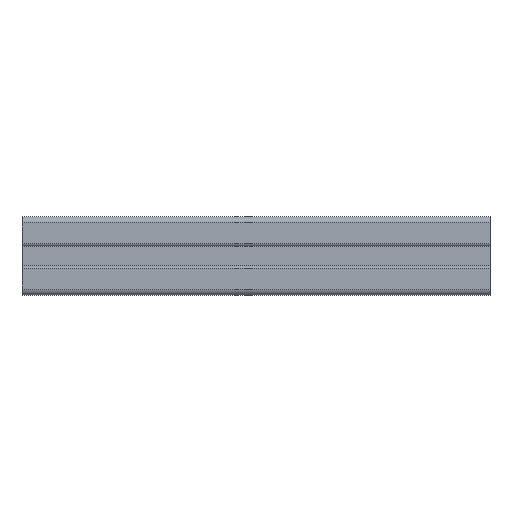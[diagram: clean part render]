
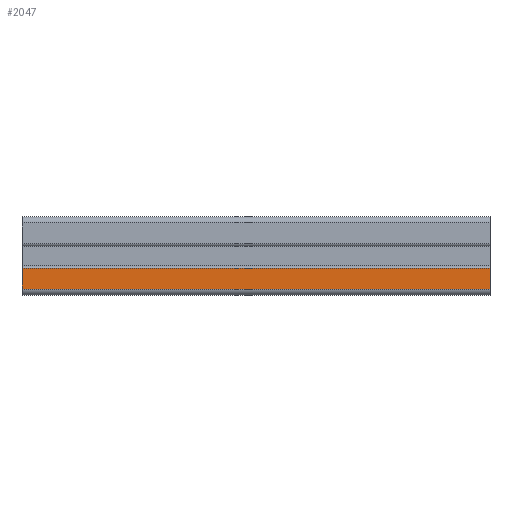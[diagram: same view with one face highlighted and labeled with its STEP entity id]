
A CAD part, front view. The second image highlights one B-rep face of the part: STEP entity #2047.
In plain terms, the highlighted free-form (B-spline) face has degree [1, 1] with [2, 2] control points.
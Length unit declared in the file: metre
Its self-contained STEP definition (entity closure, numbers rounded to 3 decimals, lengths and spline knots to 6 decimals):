
#25=B_SPLINE_SURFACE_WITH_KNOTS('',1,1,((#2998,#2999),(#3000,#3001)),
 .PLANE_SURF.,.F.,.F.,.F.,(2,2),(2,2),(0.,1.),(0.,1.),.UNSPECIFIED.);
#115=LINE('',#2995,#315);
#116=LINE('',#3002,#316);
#117=LINE('',#3004,#317);
#118=LINE('',#3006,#318);
#315=VECTOR('',#2366,1.);
#316=VECTOR('',#2369,1.);
#317=VECTOR('',#2370,1.);
#318=VECTOR('',#2371,1.);
#570=ORIENTED_EDGE('',*,*,#1178,.T.);
#571=ORIENTED_EDGE('',*,*,#1180,.F.);
#572=ORIENTED_EDGE('',*,*,#1181,.F.);
#573=ORIENTED_EDGE('',*,*,#1182,.T.);
#1178=EDGE_CURVE('',#1471,#1470,#115,.T.);
#1180=EDGE_CURVE('',#1472,#1470,#116,.T.);
#1181=EDGE_CURVE('',#1473,#1472,#117,.T.);
#1182=EDGE_CURVE('',#1473,#1471,#118,.T.);
#1470=VERTEX_POINT('',#2994);
#1471=VERTEX_POINT('',#2996);
#1472=VERTEX_POINT('',#3003);
#1473=VERTEX_POINT('',#3005);
#1775=EDGE_LOOP('',(#570,#571,#572,#573));
#1883=FACE_BOUND('',#1775,.T.);
#2047=ADVANCED_FACE('',(#1883),#25,.T.);
#2366=DIRECTION('',(1.,0.,0.));
#2369=DIRECTION('',(0.,0.,-1.));
#2370=DIRECTION('',(1.,0.,0.));
#2371=DIRECTION('',(0.,0.,-1.));
#2994=CARTESIAN_POINT('',(-0.069115,-0.01,0.130252));
#2995=CARTESIAN_POINT('',(-0.189115,-0.01,0.130252));
#2996=CARTESIAN_POINT('',(-0.189115,-0.01,0.130252));
#2998=CARTESIAN_POINT('',(-0.195115,-0.01,0.135882));
#2999=CARTESIAN_POINT('',(-0.063115,-0.01,0.135882));
#3000=CARTESIAN_POINT('',(-0.195115,-0.01,0.129984));
#3001=CARTESIAN_POINT('',(-0.063115,-0.01,0.129984));
#3002=CARTESIAN_POINT('',(-0.069115,-0.01,0.132933));
#3003=CARTESIAN_POINT('',(-0.069115,-0.01,0.135614));
#3004=CARTESIAN_POINT('',(-0.189115,-0.01,0.135614));
#3005=CARTESIAN_POINT('',(-0.189115,-0.01,0.135614));
#3006=CARTESIAN_POINT('',(-0.189115,-0.01,0.132933));
